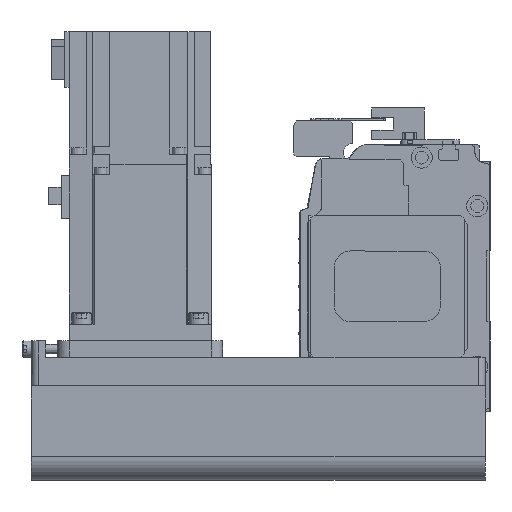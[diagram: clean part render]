
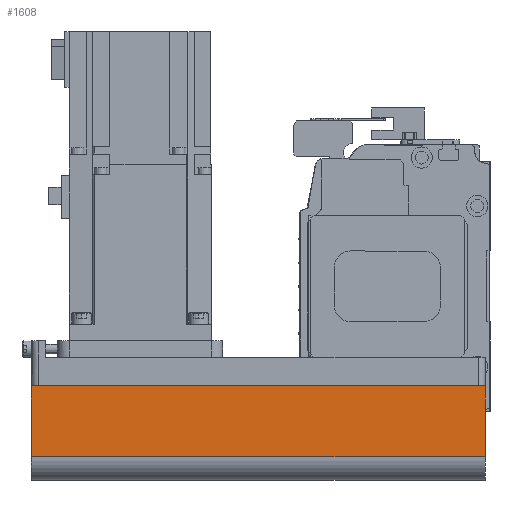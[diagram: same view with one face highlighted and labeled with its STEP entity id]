
A CAD part, left-side view. The second image highlights one B-rep face of the part: STEP entity #1608.
In plain terms, the highlighted planar face has unit normal (-1, 0, 0) as drawn and (0, -1, 0) by its records, which use the part's own axes.
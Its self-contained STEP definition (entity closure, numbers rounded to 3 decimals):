
#1608 = ADVANCED_FACE( '', ( #3618 ), #3619, .T. );
#3618 = FACE_OUTER_BOUND( '', #6106, .T. );
#3619 = PLANE( '', #6107 );
#6106 = EDGE_LOOP( '', ( #10473, #10474, #10475, #10476 ) );
#6107 = AXIS2_PLACEMENT_3D( '', #10477, #10478, #10479 );
#10473 = ORIENTED_EDGE( '', *, *, #14388, .F. );
#10474 = ORIENTED_EDGE( '', *, *, #15582, .F. );
#10475 = ORIENTED_EDGE( '', *, *, #15108, .T. );
#10476 = ORIENTED_EDGE( '', *, *, #15127, .T. );
#10477 = CARTESIAN_POINT( '', ( -192., -40., -12.1 ) );
#10478 = DIRECTION( '', ( 0., -1., 0. ) );
#10479 = DIRECTION( '', ( 0., 0., -1. ) );
#14388 = EDGE_CURVE( '', #17231, #17233, #17234, .T. );
#15108 = EDGE_CURVE( '', #18409, #18412, #18414, .T. );
#15127 = EDGE_CURVE( '', #18412, #17233, #18444, .T. );
#15582 = EDGE_CURVE( '', #18409, #17231, #19119, .T. );
#17231 = VERTEX_POINT( '', #21226 );
#17233 = VERTEX_POINT( '', #21229 );
#17234 = LINE( '', #21230, #21231 );
#18409 = VERTEX_POINT( '', #22805 );
#18412 = VERTEX_POINT( '', #22810 );
#18414 = LINE( '', #22812, #22813 );
#18444 = LINE( '', #22849, #22850 );
#19119 = LINE( '', #23741, #23742 );
#21226 = CARTESIAN_POINT( '', ( 0., -40., -12.1 ) );
#21229 = CARTESIAN_POINT( '', ( 0., -40., -42. ) );
#21230 = CARTESIAN_POINT( '', ( 0., -40., -12.1 ) );
#21231 = VECTOR( '', #25714, 1000. );
#22805 = CARTESIAN_POINT( '', ( -192., -40., -12.1 ) );
#22810 = CARTESIAN_POINT( '', ( -192., -40., -42. ) );
#22812 = CARTESIAN_POINT( '', ( -192., -40., -12.1 ) );
#22813 = VECTOR( '', #26614, 1000. );
#22849 = CARTESIAN_POINT( '', ( -192., -40., -42. ) );
#22850 = VECTOR( '', #26639, 1000. );
#23741 = CARTESIAN_POINT( '', ( -192., -40., -12.1 ) );
#23742 = VECTOR( '', #27216, 1000. );
#25714 = DIRECTION( '', ( 0., 0., -1. ) );
#26614 = DIRECTION( '', ( 0., 0., -1. ) );
#26639 = DIRECTION( '', ( 1., 0., 0. ) );
#27216 = DIRECTION( '', ( 1., 0., 0. ) );
